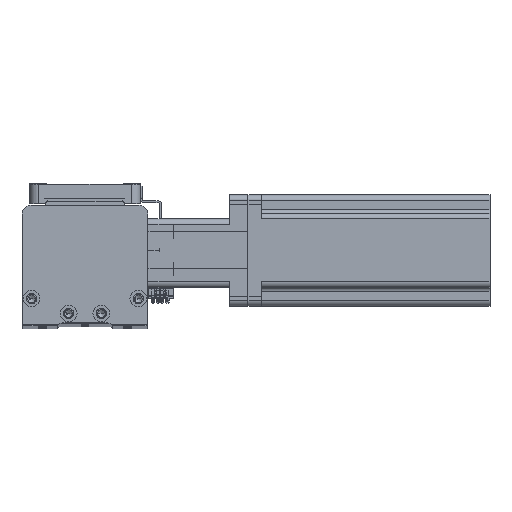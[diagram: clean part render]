
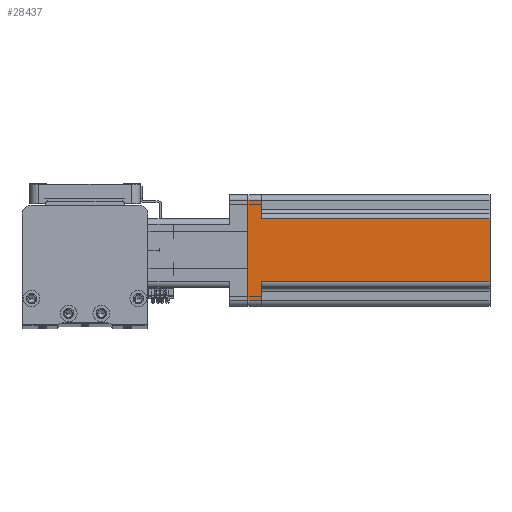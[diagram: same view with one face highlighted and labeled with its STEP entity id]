
A CAD part, top view. The second image highlights one B-rep face of the part: STEP entity #28437.
In plain terms, the highlighted planar face has unit normal (0, 0, 1) as drawn and (1, 0, 0) by its records, which use the part's own axes.
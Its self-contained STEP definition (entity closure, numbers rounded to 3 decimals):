
#2043 = DIRECTION ( 'NONE',  ( 0., 0., -1. ) ) ;
#2391 = ORIENTED_EDGE ( 'NONE', *, *, #24245, .T. ) ;
#2441 = VECTOR ( 'NONE', #9199, 1000. ) ;
#2984 = DIRECTION ( 'NONE',  ( 0., 1., 0. ) ) ;
#3281 = ORIENTED_EDGE ( 'NONE', *, *, #27539, .T. ) ;
#5474 = CARTESIAN_POINT ( 'NONE',  ( 30., -30., 7.5 ) ) ;
#6278 = CARTESIAN_POINT ( 'NONE',  ( 30., 27., 130.7 ) ) ;
#7324 = VERTEX_POINT ( 'NONE', #35416 ) ;
#7489 = AXIS2_PLACEMENT_3D ( 'NONE', #12259, #37436, #15987 ) ;
#7680 = LINE ( 'NONE', #20381, #17458 ) ;
#8398 = CARTESIAN_POINT ( 'NONE',  ( 30., -17., 7.5 ) ) ;
#8850 = EDGE_LOOP ( 'NONE', ( #21191, #16637, #31948, #37016, #2391, #19984, #10295, #3281 ) ) ;
#9199 = DIRECTION ( 'NONE',  ( 0., -1., 0. ) ) ;
#9439 = VECTOR ( 'NONE', #12115, 1000. ) ;
#10295 = ORIENTED_EDGE ( 'NONE', *, *, #27453, .F. ) ;
#11566 = VERTEX_POINT ( 'NONE', #18287 ) ;
#12115 = DIRECTION ( 'NONE',  ( 0., 0., -1. ) ) ;
#12259 = CARTESIAN_POINT ( 'NONE',  ( 30., -30., 130.7 ) ) ;
#13198 = CARTESIAN_POINT ( 'NONE',  ( 30., -30., 0. ) ) ;
#13424 = VERTEX_POINT ( 'NONE', #30684 ) ;
#14846 = VERTEX_POINT ( 'NONE', #19675 ) ;
#15987 = DIRECTION ( 'NONE',  ( 0., 0., 1. ) ) ;
#16637 = ORIENTED_EDGE ( 'NONE', *, *, #27062, .T. ) ;
#16917 = LINE ( 'NONE', #5474, #2441 ) ;
#17458 = VECTOR ( 'NONE', #2043, 1000. ) ;
#18287 = CARTESIAN_POINT ( 'NONE',  ( 30., 17., 130.7 ) ) ;
#19098 = LINE ( 'NONE', #6278, #38211 ) ;
#19675 = CARTESIAN_POINT ( 'NONE',  ( 30., -17., 7.5 ) ) ;
#19984 = ORIENTED_EDGE ( 'NONE', *, *, #27329, .T. ) ;
#20177 = CARTESIAN_POINT ( 'NONE',  ( 30., -30., 130.7 ) ) ;
#20381 = CARTESIAN_POINT ( 'NONE',  ( 30., -27., 130.7 ) ) ;
#21191 = ORIENTED_EDGE ( 'NONE', *, *, #25684, .F. ) ;
#21315 = CARTESIAN_POINT ( 'NONE',  ( 30., 30., 7.5 ) ) ;
#21655 = VERTEX_POINT ( 'NONE', #29929 ) ;
#24127 = LINE ( 'NONE', #13198, #27491 ) ;
#24205 = VECTOR ( 'NONE', #2984, 1000. ) ;
#24245 = EDGE_CURVE ( 'NONE', #30164, #13424, #24127, .T. ) ;
#25684 = EDGE_CURVE ( 'NONE', #35421, #11566, #39586, .T. ) ;
#27062 = EDGE_CURVE ( 'NONE', #35421, #14846, #38258, .T. ) ;
#27205 = EDGE_CURVE ( 'NONE', #14846, #7324, #16917, .T. ) ;
#27262 = EDGE_CURVE ( 'NONE', #7324, #30164, #7680, .T. ) ;
#27329 = EDGE_CURVE ( 'NONE', #13424, #21655, #19098, .T. ) ;
#27453 = EDGE_CURVE ( 'NONE', #43253, #21655, #33739, .T. ) ;
#27491 = VECTOR ( 'NONE', #34809, 1000. ) ;
#27539 = EDGE_CURVE ( 'NONE', #43253, #11566, #38755, .T. ) ;
#28437 = ADVANCED_FACE ( 'NONE', ( #32855 ), #30117, .F. ) ;
#28962 = VECTOR ( 'NONE', #45216, 1000. ) ;
#29303 = CARTESIAN_POINT ( 'NONE',  ( 30., 17., 130.7 ) ) ;
#29929 = CARTESIAN_POINT ( 'NONE',  ( 30., 27., 7.5 ) ) ;
#30117 = PLANE ( 'NONE',  #7489 ) ;
#30124 = CARTESIAN_POINT ( 'NONE',  ( 30., -27., 0. ) ) ;
#30164 = VERTEX_POINT ( 'NONE', #30124 ) ;
#30684 = CARTESIAN_POINT ( 'NONE',  ( 30., 27., 0. ) ) ;
#31712 = DIRECTION ( 'NONE',  ( 0., 0., 1. ) ) ;
#31948 = ORIENTED_EDGE ( 'NONE', *, *, #27205, .T. ) ;
#32855 = FACE_OUTER_BOUND ( 'NONE', #8850, .T. ) ;
#32932 = DIRECTION ( 'NONE',  ( 0., 0., 1. ) ) ;
#33379 = CARTESIAN_POINT ( 'NONE',  ( 30., -17., 130.7 ) ) ;
#33739 = LINE ( 'NONE', #21315, #24205 ) ;
#34809 = DIRECTION ( 'NONE',  ( 0., 1., 0. ) ) ;
#35416 = CARTESIAN_POINT ( 'NONE',  ( 30., -27., 7.5 ) ) ;
#35421 = VERTEX_POINT ( 'NONE', #33379 ) ;
#37016 = ORIENTED_EDGE ( 'NONE', *, *, #27262, .T. ) ;
#37436 = DIRECTION ( 'NONE',  ( -1., 0., 0. ) ) ;
#38211 = VECTOR ( 'NONE', #31712, 1000. ) ;
#38258 = LINE ( 'NONE', #8398, #9439 ) ;
#38755 = LINE ( 'NONE', #29303, #42621 ) ;
#39586 = LINE ( 'NONE', #20177, #28962 ) ;
#42621 = VECTOR ( 'NONE', #32932, 1000. ) ;
#43253 = VERTEX_POINT ( 'NONE', #43790 ) ;
#43790 = CARTESIAN_POINT ( 'NONE',  ( 30., 17., 7.5 ) ) ;
#45216 = DIRECTION ( 'NONE',  ( 0., 1., 0. ) ) ;
